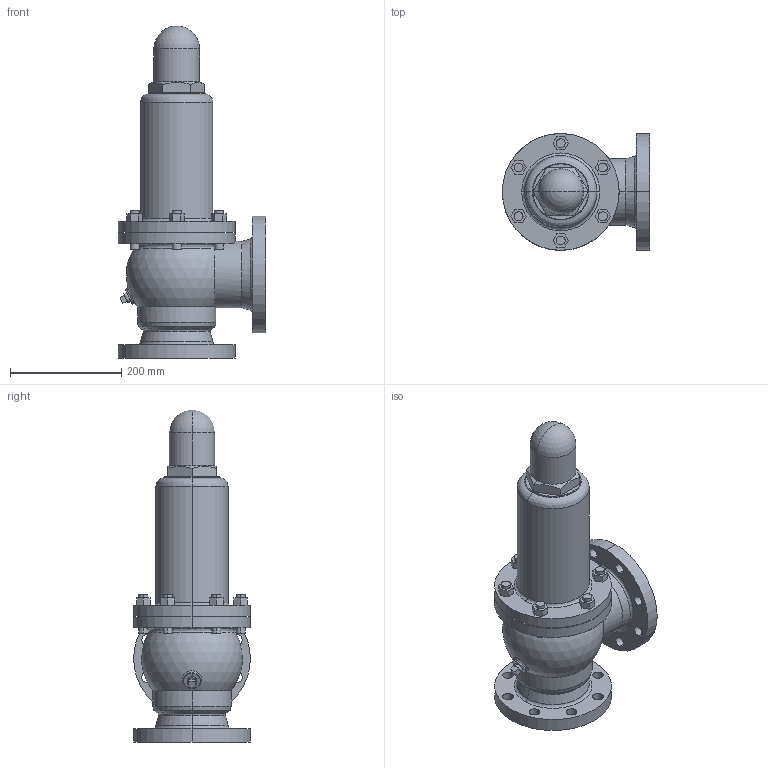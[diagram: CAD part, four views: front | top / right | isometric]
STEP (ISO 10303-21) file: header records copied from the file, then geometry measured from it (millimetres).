
FILE_DESCRIPTION( (''), '2;1');
FILE_NAME ('PC1027.9568.AL-4 100A(JIS 10K)_1358.stp','2025-07-28T13:05:37',(''),(''),'spGate 19.8.4 (****-****-****-****)','','');
FILE_SCHEMA (('AUTOMOTIVE_DESIGN'));
Length unit declared in the file: millimetre
Products named in the file (3): Assembly; 3D 100A; プラグ
Assembly tree (2 placements, depth 2):
  Assembly
    3D 100A
    プラグ
Bounding box: 265 x 210 x 597 mm (x, y, z)
Volume: 10446307.7 mm3; surface area: 510225.9 mm2
Topology: 2 solids, 2 shells, 212 faces, 528 edges, 336 vertices
Faces by surface type: cylinder 96, plane 84, bspline 29, sphere 3
Entity records: 11810 total; most frequent: CARTESIAN_POINT 2674, ORIENTED_EDGE 1048, DIRECTION 972, COLOUR_RGB 738, PRESENTATION_STYLE_ASSIGNMENT 738, STYLED_ITEM 738, EDGE_CURVE 524, DRAUGHTING_PRE_DEFINED_CURVE_FONT 524
